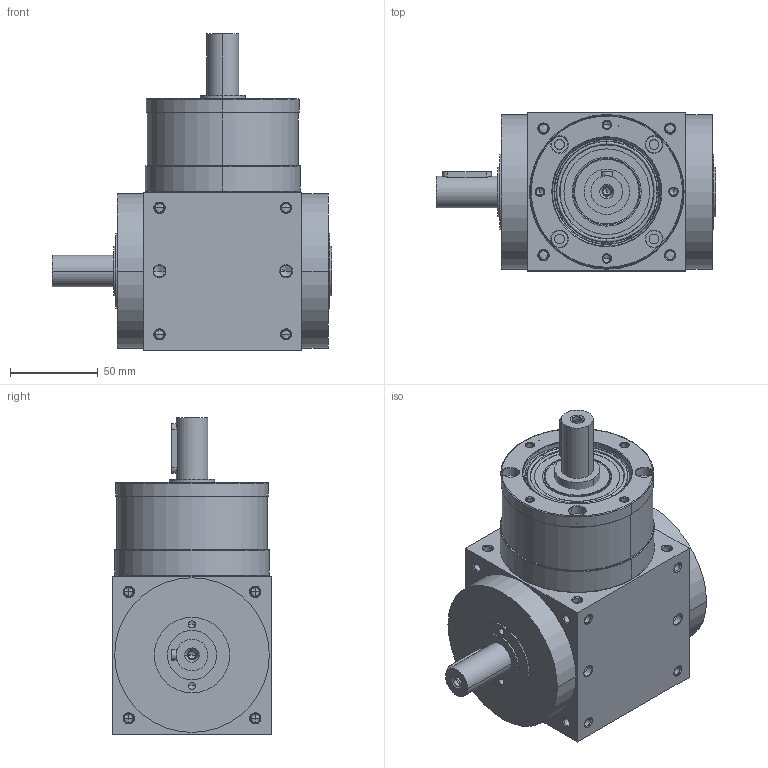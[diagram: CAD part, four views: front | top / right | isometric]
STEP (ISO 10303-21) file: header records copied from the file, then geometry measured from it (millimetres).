
FILE_DESCRIPTION((''),'2;1');
FILE_NAME('ATB090L1-1_ASM','2014-07-18T',('D00080'),(''),'PRO/ENGINEER BY PARAMETRIC TECHNOLOGY CORPORATION, 2008170','PRO/ENGINEER BY PARAMETRIC TECHNOLOGY CORPORATION, 2008170','');
FILE_SCHEMA(('CONFIG_CONTROL_DESIGN'));
Length unit declared in the file: millimetre
Products named in the file (4): ATBL1-HOUSING-1-4; P1820400001; 22400071004; ATB090L1-1_ASM
Assembly tree (3 placements, depth 2):
  ATB090L1-1_ASM
    ATBL1-HOUSING-1-4
    P1820400001
    22400071004
Bounding box: 159 x 90 x 180 mm (x, y, z)
Volume: 1131540.6 mm3; surface area: 125676.2 mm2
Topology: 4 solids, 34 shells, 556 faces, 1392 edges, 825 vertices
Faces by surface type: cylinder 258, cone 188, plane 72, torus 34, bspline 4
Entity records: 16887 total; most frequent: CARTESIAN_POINT 3711, DIRECTION 2934, ORIENTED_EDGE 2516, EDGE_CURVE 1318, AXIS2_PLACEMENT_3D 1229, VERTEX_POINT 825, CIRCLE 666, EDGE_LOOP 655
